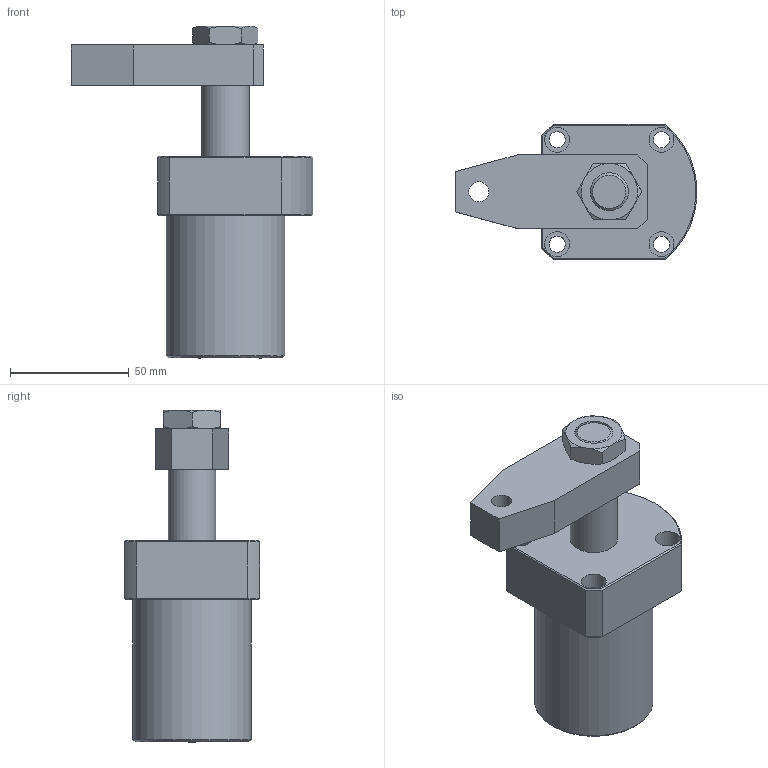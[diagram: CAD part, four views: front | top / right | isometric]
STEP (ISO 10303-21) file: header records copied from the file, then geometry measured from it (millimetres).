
FILE_DESCRIPTION(/* description */ ('Unknown'),/* implementation_level */ '2;1');
FILE_NAME(/* name */ 'HSC-FAM32S-A',/* time_stamp */ '2019-05-20T16:13:08+08:00',/* author */ ('Unknown'),/* organization */ ('Unknown'),/* preprocessor_version */ 'ST-DEVELOPER v16.7',/* originating_system */ 'DEX',/* authorisation */ $);
FILE_SCHEMA (('AUTOMOTIVE_DESIGN {1 0 10303 214 3 1 1}'));
Length unit declared in the file: millimetre
Products named in the file (4): HSC-FAM32S-A; HSC-FAM32S-CYLINDER; HSC-3202-S-AXLE CENTRE; HSC-32S-A
Assembly tree (3 placements, depth 2):
  HSC-FAM32S-A
    HSC-FAM32S-CYLINDER
    HSC-3202-S-AXLE CENTRE
    HSC-32S-A
Bounding box: 101.88 x 57 x 140 mm (x, y, z)
Volume: 229613.9 mm3; surface area: 48574.6 mm2
Topology: 3 solids, 3 shells, 103 faces, 215 edges, 135 vertices
Faces by surface type: plane 46, cone 28, cylinder 26, torus 3
Full cylindrical faces by diameter (mm): 3 x2, 4.1 x2, 6.8 x4, 8.5 x1, 9 x2, 10.5 x4, 16 x2, 17 x1, 20 x2, 32 x2, 50 x1
Entity records: 2926 total; most frequent: CARTESIAN_POINT 511, DIRECTION 428, ORIENTED_EDGE 334, AXIS2_PLACEMENT_3D 190, FACE_BOUND 170, EDGE_LOOP 168, EDGE_CURVE 167, VERTEX_POINT 125
